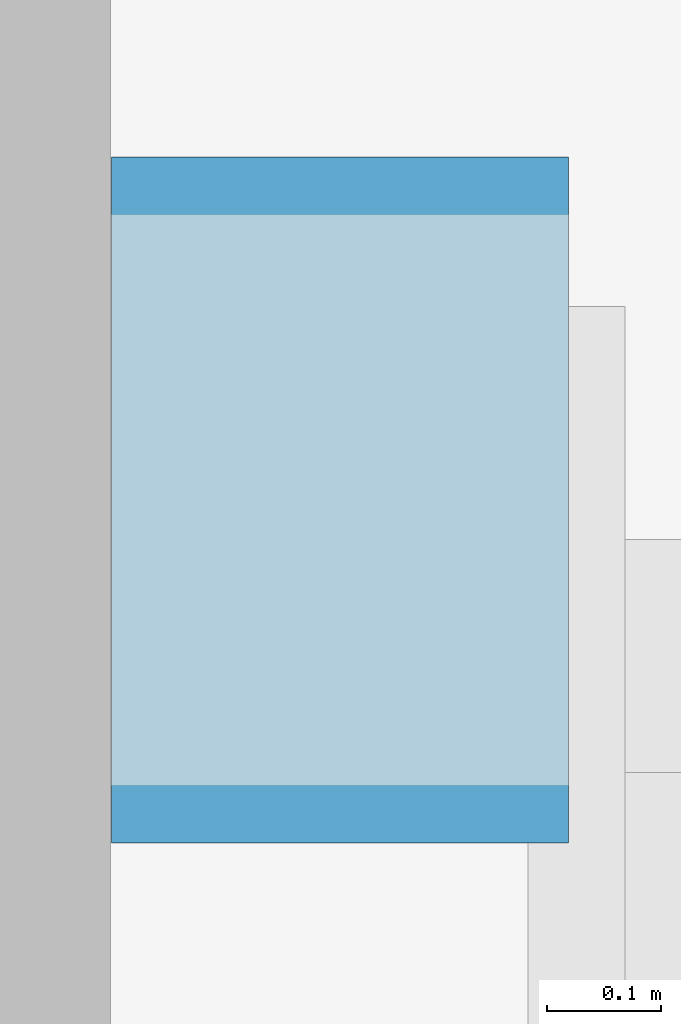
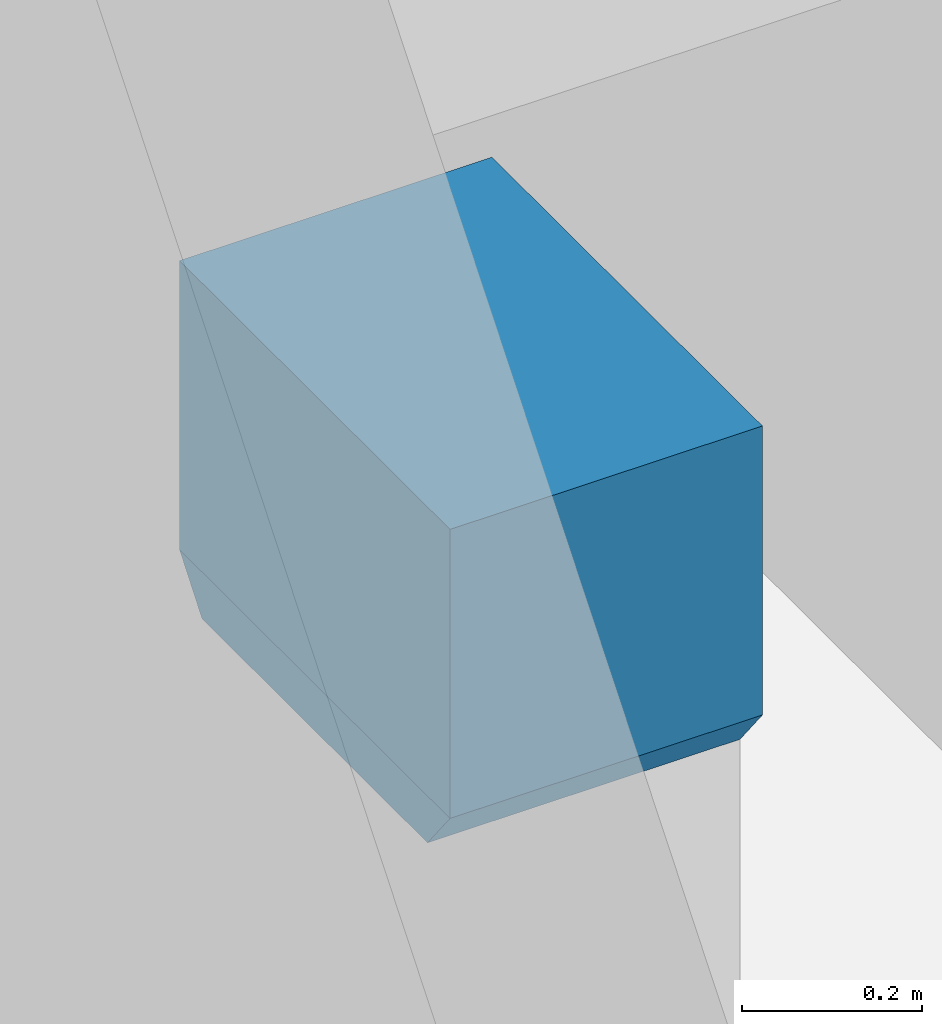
# One storey, part 228 of 301: 2 building element parts, 1 element without a shape of its own.
"""IFC2X3 building model written with IfcOpenShell, lengths in millimetres."""

from ifc_helpers import new_model, entity, si_unit, converted_unit, derived_unit, money_unit, direction, frame, origin_with_axes, place, context, subcontext, project, spatial, faceted_brep, material, type_object, element, aggregate, save


model = new_model("IFC2X3")

# Units and contexts
model_context = context("Model", 3, precision=0.01, world=origin_with_axes(), true_north=direction((0.0, 1.0)))
body_context = subcontext(model_context, "Body", "Model", "MODEL_VIEW")
ifc_project = project(units=[si_unit("LENGTHUNIT", "METRE", prefix="MILLI"), si_unit("AREAUNIT", "SQUARE_METRE"), si_unit("VOLUMEUNIT", "CUBIC_METRE"), converted_unit("PLANEANGLEUNIT", "DEGREE", entity("IfcPlaneAngleMeasure", 0.0174532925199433), si_unit("PLANEANGLEUNIT", "RADIAN"), dimensions=[0, 0, 0, 0, 0, 0, 0]), money_unit("EUR"), converted_unit("TIMEUNIT", "Year", entity("IfcTimeMeasure", 31557600.0), si_unit("TIMEUNIT", "SECOND"), dimensions=[0, 0, 1, 0, 0, 0, 0]), si_unit("MASSUNIT", "GRAM", prefix="KILO"), si_unit("THERMODYNAMICTEMPERATUREUNIT", "DEGREE_CELSIUS"), si_unit("LUMINOUSINTENSITYUNIT", "LUMEN"), si_unit("ENERGYUNIT", "JOULE", prefix="MEGA"), derived_unit("THERMALCONDUCTANCEUNIT", [(si_unit("POWERUNIT", "WATT"), 1), (si_unit("LENGTHUNIT", "METRE"), -1), (si_unit("THERMODYNAMICTEMPERATUREUNIT", "KELVIN"), -1)]), derived_unit("SPECIFICHEATCAPACITYUNIT", [(si_unit("ENERGYUNIT", "JOULE"), 1), (si_unit("MASSUNIT", "GRAM", prefix="KILO"), -1), (si_unit("THERMODYNAMICTEMPERATUREUNIT", "KELVIN"), -1)]), derived_unit("MASSDENSITYUNIT", [(si_unit("MASSUNIT", "GRAM", prefix="KILO"), 1), (si_unit("VOLUMEUNIT", "CUBIC_METRE"), -1)])], contexts=[model_context])

# Site, building, storey
site_placement = place(None, frame((0.0, 0.0, 8650.0), z_axis=(0.0, 0.0, 1.0), x_axis=(1.0, 0.0, 0.0)))
site = spatial("IfcSite", under=ifc_project, at=site_placement, Name="43301:001:0844", CompositionType="ELEMENT")
building_placement = place(site_placement, origin_with_axes())
building = spatial("IfcBuilding", under=site, at=building_placement, Name="Kuressaare Ametikooli tuulikute mehaanikute õppekorpus", CompositionType="ELEMENT")
storey_placement = place(building_placement, origin_with_axes())
storey = spatial("IfcBuildingStorey", under=building, at=storey_placement, Name="1.korrus", CompositionType="ELEMENT", Elevation=0.0)

# Column, building element parts
column_type = type_object("IfcColumnType", Name="Various Structures - 3 Segments - 600 x 400 x 3982 (3527+63+391)", PredefinedType="NOTDEFINED")
column_placement = place(storey_placement, frame((88419.61139504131, 116480.8611339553, -330.0000000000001), z_axis=(0.0, 0.0, 1.0), x_axis=(0.0, 1.0, 0.0)))
column = element("IfcColumn", 1, at=column_placement, inside=storey, type_object=column_type)
ifc_material = material(Name="GENEERILINE - KONSTRUKTRIOON")
building_element_part_1_placement = place(column_placement, origin_with_axes())
building_element_part_1 = element("IfcBuildingElementPart", 2, at=building_element_part_1_placement, material=ifc_material, Name="GENEERILINE - KONSTRUKTRIOON", context=body_context, shape_type="Brep", body=[
    faceted_brep([(299.9999999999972, -200.0000000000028, 3590.680086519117), (-299.9999999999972, -200.0000000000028, 3590.680086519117), (-250.0, -200.0000000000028, 3527.287245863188), (250.0, -200.0000000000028, 3527.287245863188), (299.9999999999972, 200.0000000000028, 3590.680086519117), (-299.9999999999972, 200.0000000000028, 3590.680086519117), (-250.0, 200.0000000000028, 3527.287245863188), (250.0, 200.0000000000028, 3527.287245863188)], [[[0, 1, 2, 3]], [[4, 5, 1, 0]], [[1, 5, 6, 2]], [[7, 3, 2, 6]], [[4, 0, 3, 7]], [[5, 4, 7, 6]]]),
])
building_element_part_2_placement = place(column_placement, origin_with_axes())
building_element_part_2 = element("IfcBuildingElementPart", 3, at=building_element_part_2_placement, material=ifc_material, Name="GENEERILINE - KONSTRUKTRIOON", context=body_context, shape_type="Brep", body=[
    faceted_brep([(-299.9999999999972, -200.0000000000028, 3981.830893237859), (-299.9999999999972, -200.0000000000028, 3590.680086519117), (299.9999999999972, -200.0000000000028, 3590.680086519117), (299.9999999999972, -200.0000000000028, 3981.830893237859), (-299.9999999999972, 200.0000000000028, 3981.830893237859), (-299.9999999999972, 200.0000000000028, 3590.680086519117), (299.9999999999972, 200.0000000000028, 3590.680086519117), (299.9999999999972, 200.0000000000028, 3981.830893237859)], [[[0, 1, 2, 3]], [[4, 5, 1, 0]], [[2, 1, 5, 6]], [[3, 2, 6, 7]], [[4, 0, 3, 7]], [[7, 6, 5, 4]]]),
])
aggregate(column, [building_element_part_1, building_element_part_2])

save(model, "model.ifc")
